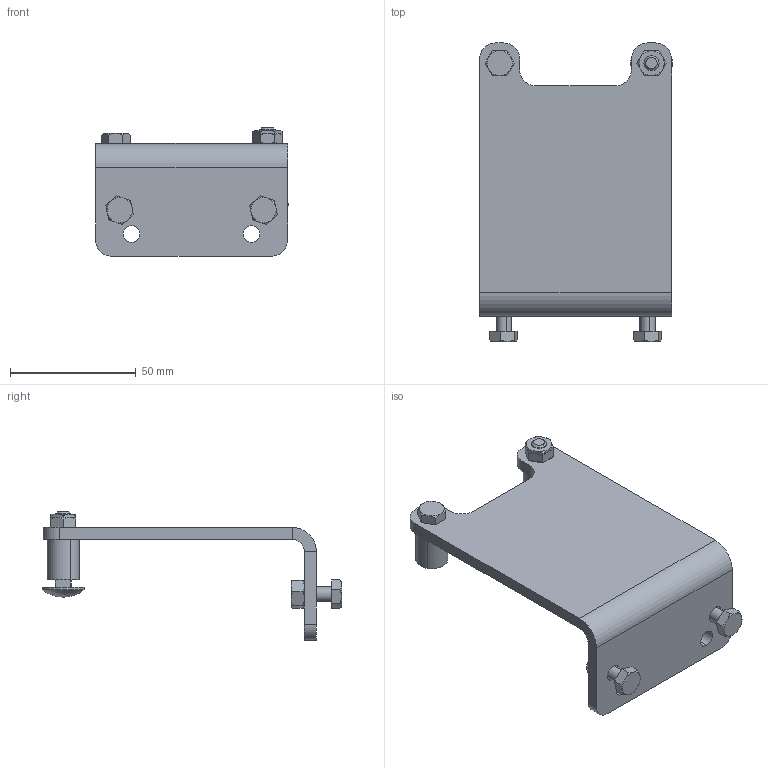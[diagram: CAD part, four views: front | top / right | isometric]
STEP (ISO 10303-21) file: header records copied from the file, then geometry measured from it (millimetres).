
FILE_DESCRIPTION((''),'2;1');
FILE_NAME('531135_ASM','2023-03-02T',('jenni.wallner'),(''),'PRO/ENGINEER BY PARAMETRIC TECHNOLOGY CORPORATION, 2012420','PRO/ENGINEER BY PARAMETRIC TECHNOLOGY CORPORATION, 2012420','');
FILE_SCHEMA(('CONFIG_CONTROL_DESIGN'));
Length unit declared in the file: inch
Products named in the file (8): 990601MSS; 531117_531117; 9606XXM_960616MSS; 531092; 900630MSS; 9606XXM_960612MSS; ASM0001_ASM; 531135_ASM
Assembly tree (12 placements, depth 3):
  531135_ASM
    ASM0001_ASM
      990601MSS  x3
      531117_531117
      9606XXM_960616MSS  x2
      531092  x2
      900630MSS
      9606XXM_960612MSS  x2
Bounding box: 76.54 x 118.8 x 50.95 mm (x, y, z)
Volume: 56359.8 mm3; surface area: 29780 mm2
Topology: 11 solids, 11 shells, 239 faces, 559 edges, 345 vertices
Faces by surface type: plane 92, cone 73, cylinder 64, sphere 6, bspline 4
Entity records: 4731 total; most frequent: CARTESIAN_POINT 1087, DIRECTION 779, ORIENTED_EDGE 686, EDGE_CURVE 343, AXIS2_PLACEMENT_3D 315, VERTEX_POINT 213, EDGE_LOOP 166, VECTOR 149
